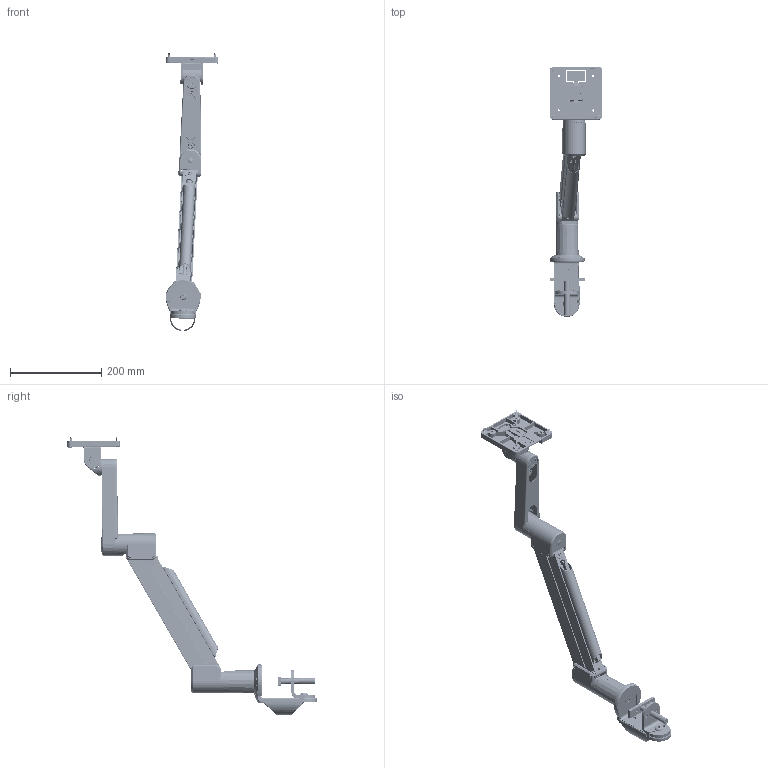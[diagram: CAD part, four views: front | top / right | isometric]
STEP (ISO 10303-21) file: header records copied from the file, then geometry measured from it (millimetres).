
FILE_DESCRIPTION(/* description */ (''),/* implementation_level */ '2;1');
FILE_NAME(/* name */ 'K:\Projects 2022\HAT Catalog-Website Updates\STP\7Flex.stp',/* time_stamp */ '2022-02-22T14:35:03-05:00',/* author */ ('agorospe'),/* organization */ (''),/* preprocessor_version */ 'ST-DEVELOPER v18.1',/* originating_system */ 'Autodesk Inventor 2021',/* authorisation */ '');
FILE_SCHEMA (('AUTOMOTIVE_DESIGN { 1 0 10303 214 3 1 1 }'));
Products named in the file (63): 7Flex; 8374; 406715; 105539-M; 701270; 105553; 105538; 701117; 701544; 701124; 701418; 701126; 111728; 702898; 417286-XXX; 752221-M-XXX; 752221-M-XXX_1; 752221-M; 111867; 415893; 752206-M; 751139; 112017; 712086; 701315; 700112; 105788; 417197; 115507; 105602; 115602; 751142; 115864; 105304; 715866; 116109; 411165-XXX; 306666-AAS; 752209; 701239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
Assembly tree (72 placements, depth 5):
  7Flex
    8374
      406715
        105539-M
        105602
        701270
      105553
      105538
      701117
      701544
      701124
      701418
      701126
      111728
      702898
    417286-XXX
      752221-M-XXX
      752221-M-XXX_1
        752221-M
      111867
      415893
        752206-M
        751139
      112017
      712086
      701315
      700112
      105788  x2
      417197
        115507
        105602
        115602
      751142  x4
      115864
      105304
      715866
      116109
      411165-XXX
        306666-AAS
          752209
          701239
        702865
          702865cylinder
          702865shaft
          702865ballsocket
        115744
      115584
      702151
    8500
      112124-M
      111852-M
      114804
      114802  x2
      111854
      715168
      701634  x2
      702819
      114807
      114806
      114808
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Bounding box: 115.4 x 545.63 x 608.25 mm (x, y, z)
Volume: 1053432 mm3; surface area: 561506.3 mm2
Topology: 192 solids, 192 shells, 7106 faces, 19360 edges, 12650 vertices
Faces by surface type: plane 3184, cylinder 1786, bspline 1211, cone 411, sphere 331, torus 183
Full cylindrical faces by diameter (mm): 0.026 x4, 1.524 x2, 2.921 x1, 2.946 x1, 3.048 x4, 3.091 x64, 3.175 x3, 3.795 x40, 3.962 x4, 4 x60, 4.115 x4, 4.178 x10, 4.775 x11, 4.826 x44, 4.928 x3, 5.105 x1, 5.156 x2, 5.309 x2, 5.461 x1, 5.613 x1, 5.893 x1, 5.969 x8, 5.994 x1, 6 x2, 6.35 x32, 6.401 x1, 6.528 x1, 6.553 x8, 6.604 x1, 6.731 x1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
Entity records: 229574 total; most frequent: CARTESIAN_POINT 81486, ORIENTED_EDGE 32248, DIRECTION 26068, EDGE_CURVE 16124, VERTEX_POINT 10560, LINE 8970, VECTOR 8970, AXIS2_PLACEMENT_3D 8549
